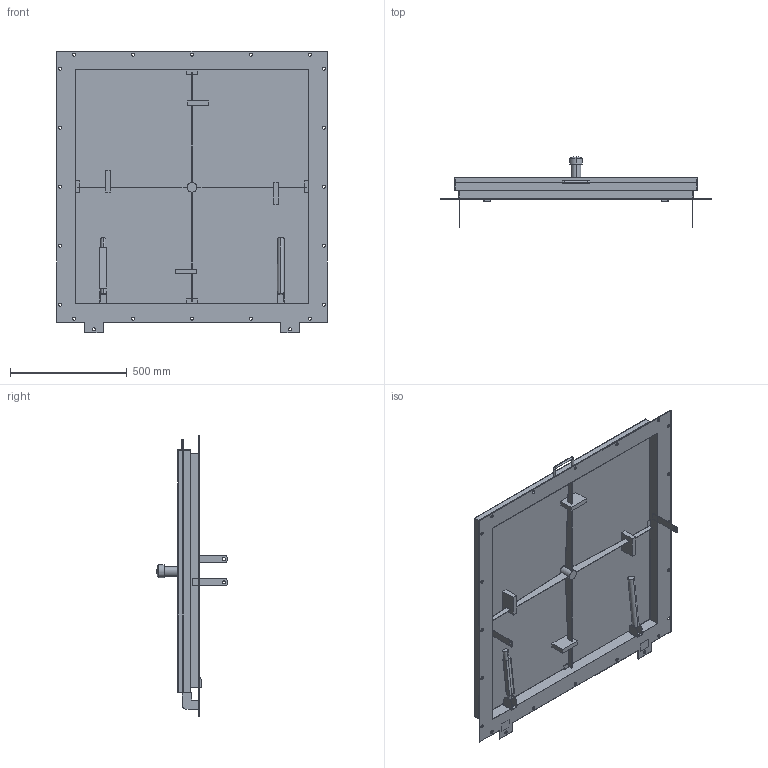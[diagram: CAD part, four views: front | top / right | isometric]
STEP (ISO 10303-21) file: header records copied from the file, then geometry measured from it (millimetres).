
FILE_DESCRIPTION((''),'2;1');
FILE_NAME('52427777','2025-08-05T10:48:50',('wep'),('HUBER SE'),'CREO PARAMETRIC BY PTC INC, 2022162','CREO PARAMETRIC BY PTC INC, 2022162','');
FILE_SCHEMA(('AUTOMOTIVE_DESIGN { 1 0 10303 214 1 1 1 1 }'));
Length unit declared in the file: millimetre
Products named in the file (1): 52427777
Bounding box: 1160 x 303 x 1205 mm (x, y, z)
Volume: 6597539.6 mm3; surface area: 6192819 mm2
Topology: 3 solids, 4 shells, 841 faces, 2287 edges, 1513 vertices
Faces by surface type: plane 486, extrusion 275, cylinder 74, bspline 4, sphere 2
Entity records: 28462 total; most frequent: CARTESIAN_POINT 7437, ORIENTED_EDGE 4562, DIRECTION 3284, EDGE_CURVE 2281, VECTOR 1848, LINE 1573, VERTEX_POINT 1513, EDGE_LOOP 964
